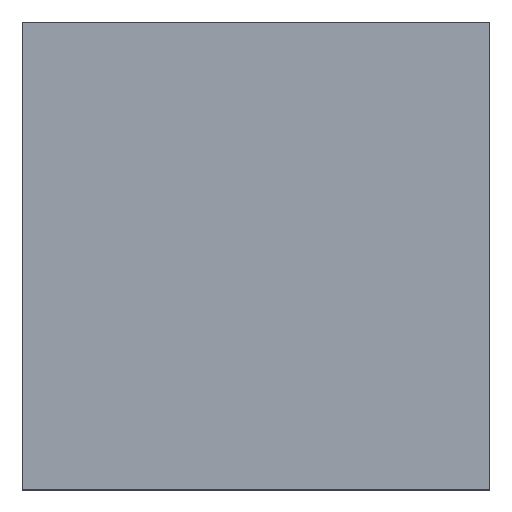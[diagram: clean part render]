
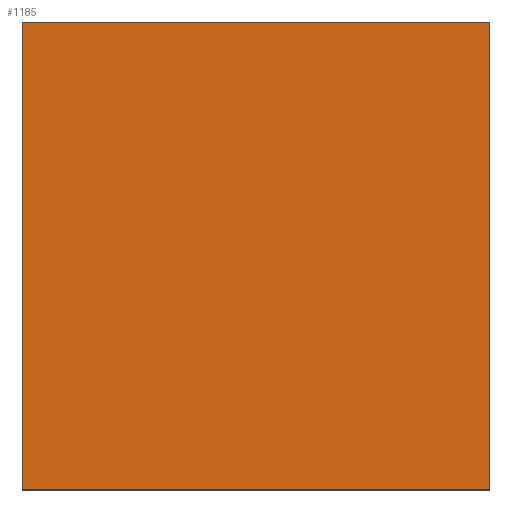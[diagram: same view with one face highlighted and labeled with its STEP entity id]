
A CAD part, top view. The second image highlights one B-rep face of the part: STEP entity #1185.
In plain terms, the highlighted planar face has unit normal (0, 0, 1).
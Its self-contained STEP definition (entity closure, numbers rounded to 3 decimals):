
#1 = CARTESIAN_POINT ( 'NONE',  ( 0., 0., 10. ) ) ;
#30 = EDGE_CURVE ( 'NONE', #1336, #56, #640, .T. ) ;
#56 = VERTEX_POINT ( 'NONE', #1083 ) ;
#96 = EDGE_CURVE ( 'NONE', #1062, #803, #529, .T. ) ;
#171 = FACE_OUTER_BOUND ( 'NONE', #671, .T. ) ;
#259 = DIRECTION ( 'NONE',  ( 1., 0., 0. ) ) ;
#262 = VECTOR ( 'NONE', #432, 1000. ) ;
#313 = DIRECTION ( 'NONE',  ( -1., 0., 0. ) ) ;
#382 = ORIENTED_EDGE ( 'NONE', *, *, #1216, .T. ) ;
#401 = VECTOR ( 'NONE', #259, 1000. ) ;
#407 = AXIS2_PLACEMENT_3D ( 'NONE', #861, #846, #313 ) ;
#432 = DIRECTION ( 'NONE',  ( 0., -1., 0. ) ) ;
#529 = LINE ( 'NONE', #959, #1054 ) ;
#555 = ORIENTED_EDGE ( 'NONE', *, *, #566, .T. ) ;
#566 = EDGE_CURVE ( 'NONE', #56, #1062, #799, .T. ) ;
#591 = PLANE ( 'NONE',  #407 ) ;
#596 = ORIENTED_EDGE ( 'NONE', *, *, #30, .T. ) ;
#640 = LINE ( 'NONE', #1, #262 ) ;
#671 = EDGE_LOOP ( 'NONE', ( #596, #555, #1170, #382 ) ) ;
#799 = LINE ( 'NONE', #1230, #401 ) ;
#803 = VERTEX_POINT ( 'NONE', #1378 ) ;
#846 = DIRECTION ( 'NONE',  ( 0., 0., -1. ) ) ;
#859 = DIRECTION ( 'NONE',  ( 0., 1., 0. ) ) ;
#861 = CARTESIAN_POINT ( 'NONE',  ( 0., 0., 10. ) ) ;
#957 = CARTESIAN_POINT ( 'NONE',  ( 0., 38., 10. ) ) ;
#959 = CARTESIAN_POINT ( 'NONE',  ( 38., 0., 10. ) ) ;
#1054 = VECTOR ( 'NONE', #859, 1000. ) ;
#1062 = VERTEX_POINT ( 'NONE', #1317 ) ;
#1083 = CARTESIAN_POINT ( 'NONE',  ( 0., 0., 10. ) ) ;
#1086 = DIRECTION ( 'NONE',  ( -1., 0., 0. ) ) ;
#1170 = ORIENTED_EDGE ( 'NONE', *, *, #96, .T. ) ;
#1179 = LINE ( 'NONE', #957, #1308 ) ;
#1185 = ADVANCED_FACE ( 'NONE', ( #171 ), #591, .F. ) ;
#1216 = EDGE_CURVE ( 'NONE', #803, #1336, #1179, .T. ) ;
#1219 = CARTESIAN_POINT ( 'NONE',  ( 0., 38., 10. ) ) ;
#1230 = CARTESIAN_POINT ( 'NONE',  ( 0., 0., 10. ) ) ;
#1308 = VECTOR ( 'NONE', #1086, 1000. ) ;
#1317 = CARTESIAN_POINT ( 'NONE',  ( 38., 0., 10. ) ) ;
#1336 = VERTEX_POINT ( 'NONE', #1219 ) ;
#1378 = CARTESIAN_POINT ( 'NONE',  ( 38., 38., 10. ) ) ;
